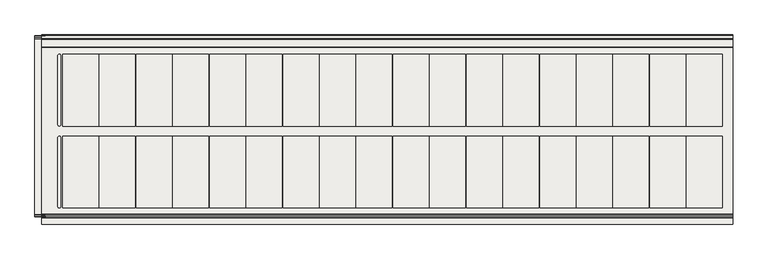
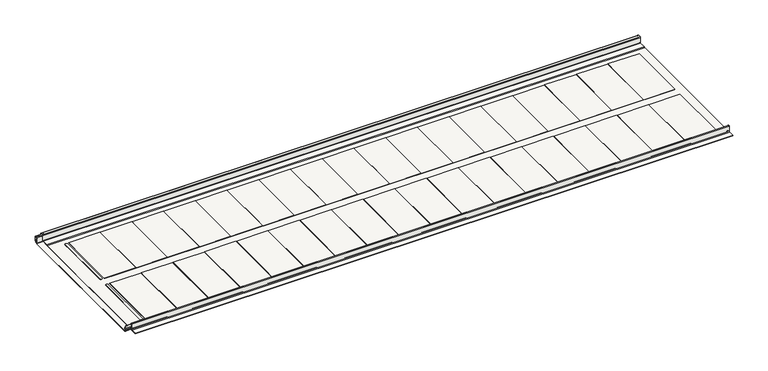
"""IFC4 building model written with IfcOpenShell, lengths in millimetres: covering geometry, Zintegrowany dach fotowoltaiczny FIT VOLT (pojedynczy arkusz) : Zintegrowany dach fotowoltaiczny FIT VOLT (pojedynczy arkusz)."""

from ifc_helpers import new_model, si_unit, point, frame, frame_2d, origin, origin_with_axes, place, context, project, spatial, polyline, circle_curve, trimmed, segment, composite_curve, outline, extrude, source, transform, mapped, element, save


def covering_053faf2b(model_context):
    return source(origin(), model_context, "Body", "SweptSolid", [
        extrude(outline(composite_curve([segment(polyline([(-2.5681305, 21.8319677), (2.9635359, 9.0966765)]), True, "CONTINUOUS"), segment(trimmed(circle_curve(frame_2d((1.8858378, 8.3696504)), 1.3), [point((2.9635359, 9.0966765))], [point((2.5164487, 7.2328434))], False, "CARTESIAN"), True, "CONTINUOUS"), segment(polyline([(2.5164487, 7.2328434), (-0.4684049, 6.0274031)]), True, "CONTINUOUS"), segment(trimmed(circle_curve(frame_2d((-0.2133471, 5.3958411)), 0.6811204), [point((-0.4684049, 6.0274031))], [point((-0.8105181, 5.0682564))], True, "CARTESIAN"), True, "CONTINUOUS"), segment(polyline([(-0.8105181, 5.0682564), (1.9697298, 0.0), (521.7638552, 0.0)]), True, "CONTINUOUS"), segment(trimmed(circle_curve(frame_2d((521.7638552, 0.82435)), 0.82435), [point((521.7638552, 0.0))], [point((522.5882052, 0.82435))], True, "CARTESIAN"), True, "CONTINUOUS"), segment(polyline([(522.5882052, 0.82435), (522.5882052, 20.0)]), True, "CONTINUOUS"), segment(trimmed(circle_curve(frame_2d((524.5882052, 20.0)), 2.0), [point((522.5882052, 20.0))], [point((524.5882052, 22.0))], False, "CARTESIAN"), True, "CONTINUOUS"), segment(polyline([(524.5882052, 22.0), (529.4117948, 22.0)]), True, "CONTINUOUS"), segment(trimmed(circle_curve(frame_2d((529.4117948, 20.0)), 2.0), [point((529.4117948, 22.0))], [point((531.4117948, 20.0))], False, "CARTESIAN"), True, "CONTINUOUS"), segment(polyline([(531.4117948, 20.0), (531.4117948, 7.9245569)]), True, "CONTINUOUS"), segment(trimmed(circle_curve(frame_2d((527.6117948, 7.9245569)), 3.8), [point((531.4117948, 7.9245569))], [point((529.3014079, 4.520852))], False, "CARTESIAN"), True, "CONTINUOUS"), segment(trimmed(circle_curve(frame_2d((529.8170787, 3.4820395)), 1.1597619), [point((529.3014079, 4.520852))], [point((528.671889, 3.2987691))], True, "CARTESIAN"), True, "CONTINUOUS"), segment(polyline([(528.671889, 3.2987691), (529.5083048, 1.7740238), (528.6315567, 1.2930739), (527.799575, 2.809736)]), True, "CONTINUOUS"), segment(trimmed(circle_curve(frame_2d((529.3170787, 3.4820395)), 1.6597619), [point((527.799575, 2.809736))], [point((528.5790904, 4.9687079))], False, "CARTESIAN"), True, "CONTINUOUS"), segment(trimmed(circle_curve(frame_2d((527.1117948, 7.9245569)), 3.3), [point((528.5790904, 4.9687079))], [point((530.4117948, 7.9245569))], True, "CARTESIAN"), True, "CONTINUOUS"), segment(polyline([(530.4117948, 7.9245569), (530.4117948, 19.5)]), True, "CONTINUOUS"), segment(trimmed(circle_curve(frame_2d((528.9117948, 19.5)), 1.5), [point((530.4117948, 19.5))], [point((528.9117948, 21.0))], True, "CARTESIAN"), True, "CONTINUOUS"), segment(polyline([(528.9117948, 21.0), (525.0882052, 21.0)]), True, "CONTINUOUS"), segment(trimmed(circle_curve(frame_2d((525.0882052, 19.5)), 1.5), [point((525.0882052, 21.0))], [point((523.5882052, 19.5))], True, "CARTESIAN"), True, "CONTINUOUS"), segment(polyline([(523.5882052, 19.5), (523.5882052, 0.7363796)]), True, "CONTINUOUS"), segment(trimmed(circle_curve(frame_2d((521.7893299, 0.8)), 1.8), [point((523.5882052, 0.7363796))], [point((521.7893299, -1.0))], False, "CARTESIAN"), True, "CONTINUOUS"), segment(polyline([(521.7893299, -1.0), (2.5617472, -1.0)]), True, "CONTINUOUS"), segment(trimmed(circle_curve(frame_2d((2.5617472, 1.0)), 2.0), [point((2.5617472, -1.0))], [point((0.808251, 0.0381003))], False, "CARTESIAN"), True, "CONTINUOUS"), segment(polyline([(0.808251, 0.0381003), (-1.8392101, 4.8642928)]), True, "CONTINUOUS"), segment(trimmed(circle_curve(frame_2d((-0.611401, 5.537821)), 1.4004126), [point((-1.8392101, 4.8642928))], [point((-1.1358108, 6.8363393))], False, "CARTESIAN"), True, "CONTINUOUS"), segment(polyline([(-1.1358108, 6.8363393), (2.2594808, 8.207536), (-3.4160384, 21.2740127)]), True, "CONTINUOUS"), segment(trimmed(circle_curve(frame_2d((-2.9435539, 21.4792398)), 0.5151308), [point((-3.4160384, 21.2740127))], [point((-2.5681305, 21.8319677))], False, "CARTESIAN"), True, "CONTINUOUS")], self_intersect=False)), frame((-1585.0, 0.0, 0.0), z_axis=(1.0, 0.0, 0.0), x_axis=(0.0, 1.0, 0.0)), (0.0, 0.0, 1.0), 30.0),
        extrude(outline(polyline([(-1503.0, 264.5790386), (-1503.0, 476.3537022), (-1396.67, 476.3537022), (-1396.67, 264.5790386), (-1503.0, 264.5790386)])), origin_with_axes(), (0.0, 0.0, 1.0), 2.0),
        extrude(outline(polyline([(-1503.0, 234.5790386), (-1396.67, 234.5790386), (-1396.67, 22.804375), (-1503.0, 22.804375), (-1503.0, 234.5790386)])), origin_with_axes(), (0.0, 0.0, 1.0), 2.0),
        extrude(outline(composite_curve([segment(polyline([(-1517.1944099, 268.7414835), (-1517.1944099, 472.1912573)]), True, "CONTINUOUS"), segment(trimmed(circle_curve(frame_2d((-1513.031965, 472.1912573)), 4.1624449), [point((-1517.1944099, 472.1912573))], [point((-1508.8695201, 472.1912573))], False, "CARTESIAN"), True, "CONTINUOUS"), segment(polyline([(-1508.8695201, 472.1912573), (-1508.8695201, 268.7414835)]), True, "CONTINUOUS"), segment(trimmed(circle_curve(frame_2d((-1513.031965, 268.7414835)), 4.1624449), [point((-1508.8695201, 268.7414835))], [point((-1517.1944099, 268.7414835))], False, "CARTESIAN"), True, "CONTINUOUS")], self_intersect=False)), origin_with_axes(), (0.0, 0.0, 1.0), 2.0),
        extrude(outline(composite_curve([segment(trimmed(circle_curve(frame_2d((-1513.031965, 230.4165937)), 4.1624449), [point((-1517.1944099, 230.4165937))], [point((-1508.8695201, 230.4165937))], False, "CARTESIAN"), True, "CONTINUOUS"), segment(polyline([(-1508.8695201, 230.4165937), (-1508.8695201, 26.9668199)]), True, "CONTINUOUS"), segment(trimmed(circle_curve(frame_2d((-1513.031965, 26.9668199)), 4.1624449), [point((-1508.8695201, 26.9668199))], [point((-1517.1944099, 26.9668199))], False, "CARTESIAN"), True, "CONTINUOUS"), segment(polyline([(-1517.1944099, 26.9668199), (-1517.1944099, 230.4165937)]), True, "CONTINUOUS")], self_intersect=False)), origin_with_axes(), (0.0, 0.0, 1.0), 2.0),
        extrude(outline(polyline([(-1288.3333333, 264.5790386), (-1394.6633333, 264.5790386), (-1394.6633333, 476.3537022), (-1288.3333333, 476.3537022), (-1288.3333333, 264.5790386)])), origin_with_axes(), (0.0, 0.0, 1.0), 2.0),
        extrude(outline(polyline([(-1288.3333333, 234.5790386), (-1288.3333333, 22.804375), (-1394.6633333, 22.804375), (-1394.6633333, 234.5790386), (-1288.3333333, 234.5790386)])), origin_with_axes(), (0.0, 0.0, 1.0), 2.0),
        extrude(outline(polyline([(-1286.3333333, 264.5790386), (-1286.3333333, 476.3537022), (-1180.0033333, 476.3537022), (-1180.0033333, 264.5790386), (-1286.3333333, 264.5790386)])), origin_with_axes(), (0.0, 0.0, 1.0), 2.0),
        extrude(outline(polyline([(-1286.3333333, 234.5790386), (-1180.0033333, 234.5790386), (-1180.0033333, 22.804375), (-1286.3333333, 22.804375), (-1286.3333333, 234.5790386)])), origin_with_axes(), (0.0, 0.0, 1.0), 2.0),
        extrude(outline(polyline([(-1071.6666667, 264.5790386), (-1177.9966667, 264.5790386), (-1177.9966667, 476.3537022), (-1071.6666667, 476.3537022), (-1071.6666667, 264.5790386)])), origin_with_axes(), (0.0, 0.0, 1.0), 2.0),
        extrude(outline(polyline([(-1071.6666667, 234.5790386), (-1071.6666667, 22.804375), (-1177.9966667, 22.804375), (-1177.9966667, 234.5790386), (-1071.6666667, 234.5790386)])), origin_with_axes(), (0.0, 0.0, 1.0), 2.0),
        extrude(outline(polyline([(-1069.6666667, 264.5790386), (-1069.6666667, 476.3537022), (-963.3366667, 476.3537022), (-963.3366667, 264.5790386), (-1069.6666667, 264.5790386)])), origin_with_axes(), (0.0, 0.0, 1.0), 2.0),
        extrude(outline(polyline([(-1069.6666667, 234.5790386), (-963.3366667, 234.5790386), (-963.3366667, 22.804375), (-1069.6666667, 22.804375), (-1069.6666667, 234.5790386)])), origin_with_axes(), (0.0, 0.0, 1.0), 2.0),
        extrude(outline(polyline([(-855.0, 264.5790386), (-961.33, 264.5790386), (-961.33, 476.3537022), (-855.0, 476.3537022), (-855.0, 264.5790386)])), origin_with_axes(), (0.0, 0.0, 1.0), 2.0),
        extrude(outline(polyline([(-855.0, 234.5790386), (-855.0, 22.804375), (-961.33, 22.804375), (-961.33, 234.5790386), (-855.0, 234.5790386)])), origin_with_axes(), (0.0, 0.0, 1.0), 2.0),
        extrude(outline(polyline([(-853.0, 264.5790386), (-853.0, 476.3537022), (-746.67, 476.3537022), (-746.67, 264.5790386), (-853.0, 264.5790386)])), origin_with_axes(), (0.0, 0.0, 1.0), 2.0),
        extrude(outline(polyline([(-853.0, 234.5790386), (-746.67, 234.5790386), (-746.67, 22.804375), (-853.0, 22.804375), (-853.0, 234.5790386)])), origin_with_axes(), (0.0, 0.0, 1.0), 2.0),
        extrude(outline(polyline([(-638.3333333, 264.5790386), (-744.6633333, 264.5790386), (-744.6633333, 476.3537022), (-638.3333333, 476.3537022), (-638.3333333, 264.5790386)])), origin_with_axes(), (0.0, 0.0, 1.0), 2.0),
        extrude(outline(polyline([(-638.3333333, 234.5790386), (-638.3333333, 22.804375), (-744.6633333, 22.804375), (-744.6633333, 234.5790386), (-638.3333333, 234.5790386)])), origin_with_axes(), (0.0, 0.0, 1.0), 2.0),
        extrude(outline(polyline([(-636.3333333, 264.5790386), (-636.3333333, 476.3537022), (-530.0033333, 476.3537022), (-530.0033333, 264.5790386), (-636.3333333, 264.5790386)])), origin_with_axes(), (0.0, 0.0, 1.0), 2.0),
        extrude(outline(polyline([(-636.3333333, 234.5790386), (-530.0033333, 234.5790386), (-530.0033333, 22.804375), (-636.3333333, 22.804375), (-636.3333333, 234.5790386)])), origin_with_axes(), (0.0, 0.0, 1.0), 2.0),
        extrude(outline(polyline([(-421.6666667, 264.5790386), (-527.9966667, 264.5790386), (-527.9966667, 476.3537022), (-421.6666667, 476.3537022), (-421.6666667, 264.5790386)])), origin_with_axes(), (0.0, 0.0, 1.0), 2.0),
        extrude(outline(polyline([(-421.6666667, 234.5790386), (-421.6666667, 22.804375), (-527.9966667, 22.804375), (-527.9966667, 234.5790386), (-421.6666667, 234.5790386)])), origin_with_axes(), (0.0, 0.0, 1.0), 2.0),
        extrude(outline(polyline([(-419.6666667, 264.5790386), (-419.6666667, 476.3537022), (-313.3366667, 476.3537022), (-313.3366667, 264.5790386), (-419.6666667, 264.5790386)])), origin_with_axes(), (0.0, 0.0, 1.0), 2.0),
        extrude(outline(polyline([(-419.6666667, 234.5790386), (-313.3366667, 234.5790386), (-313.3366667, 22.804375), (-419.6666667, 22.804375), (-419.6666667, 234.5790386)])), origin_with_axes(), (0.0, 0.0, 1.0), 2.0),
        extrude(outline(polyline([(-205.0, 264.5790386), (-311.33, 264.5790386), (-311.33, 476.3537022), (-205.0, 476.3537022), (-205.0, 264.5790386)])), origin_with_axes(), (0.0, 0.0, 1.0), 2.0),
        extrude(outline(polyline([(-205.0, 234.5790386), (-205.0, 22.804375), (-311.33, 22.804375), (-311.33, 234.5790386), (-205.0, 234.5790386)])), origin_with_axes(), (0.0, 0.0, 1.0), 2.0),
        extrude(outline(polyline([(-203.0, 264.5790386), (-203.0, 476.3537022), (-96.67, 476.3537022), (-96.67, 264.5790386), (-203.0, 264.5790386)])), origin_with_axes(), (0.0, 0.0, 1.0), 2.0),
        extrude(outline(polyline([(-203.0, 234.5790386), (-96.67, 234.5790386), (-96.67, 22.804375), (-203.0, 22.804375), (-203.0, 234.5790386)])), origin_with_axes(), (0.0, 0.0, 1.0), 2.0),
        extrude(outline(polyline([(11.6666667, 264.5790386), (-94.6633333, 264.5790386), (-94.6633333, 476.3537022), (11.6666667, 476.3537022), (11.6666667, 264.5790386)])), origin_with_axes(), (0.0, 0.0, 1.0), 2.0),
        extrude(outline(polyline([(11.6666667, 234.5790386), (11.6666667, 22.804375), (-94.6633333, 22.804375), (-94.6633333, 234.5790386), (11.6666667, 234.5790386)])), origin_with_axes(), (0.0, 0.0, 1.0), 2.0),
        extrude(outline(polyline([(13.6666667, 264.5790386), (13.6666667, 476.3537022), (119.9966667, 476.3537022), (119.9966667, 264.5790386), (13.6666667, 264.5790386)])), origin_with_axes(), (0.0, 0.0, 1.0), 2.0),
        extrude(outline(polyline([(13.6666667, 234.5790386), (119.9966667, 234.5790386), (119.9966667, 22.804375), (13.6666667, 22.804375), (13.6666667, 234.5790386)])), origin_with_axes(), (0.0, 0.0, 1.0), 2.0),
        extrude(outline(polyline([(228.3333333, 264.5790386), (122.0033333, 264.5790386), (122.0033333, 476.3537022), (228.3333333, 476.3537022), (228.3333333, 264.5790386)])), origin_with_axes(), (0.0, 0.0, 1.0), 2.0),
        extrude(outline(polyline([(228.3333333, 234.5790386), (228.3333333, 22.804375), (122.0033333, 22.804375), (122.0033333, 234.5790386), (228.3333333, 234.5790386)])), origin_with_axes(), (0.0, 0.0, 1.0), 2.0),
        extrude(outline(polyline([(230.3333333, 264.5790386), (230.3333333, 476.3537022), (336.6633333, 476.3537022), (336.6633333, 264.5790386), (230.3333333, 264.5790386)])), origin_with_axes(), (0.0, 0.0, 1.0), 2.0),
        extrude(outline(polyline([(230.3333333, 234.5790386), (336.6633333, 234.5790386), (336.6633333, 22.804375), (230.3333333, 22.804375), (230.3333333, 234.5790386)])), origin_with_axes(), (0.0, 0.0, 1.0), 2.0),
        extrude(outline(polyline([(445.0, 264.5790386), (338.67, 264.5790386), (338.67, 476.3537022), (445.0, 476.3537022), (445.0, 264.5790386)])), origin_with_axes(), (0.0, 0.0, 1.0), 2.0),
        extrude(outline(polyline([(445.0, 234.5790386), (445.0, 22.804375), (338.67, 22.804375), (338.67, 234.5790386), (445.0, 234.5790386)])), origin_with_axes(), (0.0, 0.0, 1.0), 2.0),
        extrude(outline(composite_curve([segment(polyline([(-24.5882052, 1.0), (-7.3006701, 1.0)]), True, "CONTINUOUS"), segment(trimmed(circle_curve(frame_2d((-7.3006701, 3.8)), 2.8), [point((-7.3006701, 1.0))], [point((-4.5006701, 3.8))], True, "CARTESIAN"), True, "CONTINUOUS"), segment(polyline([(-4.5006701, 3.8), (-4.5006701, 21.5940327)]), True, "CONTINUOUS"), segment(trimmed(circle_curve(frame_2d((-2.8873432, 21.3837808)), 1.6269694), [point((-4.5006701, 21.5940327))], [point((-1.4716419, 22.185541))], False, "CARTESIAN"), True, "CONTINUOUS"), segment(polyline([(-1.4716419, 22.185541), (3.9852393, 9.622424)]), True, "CONTINUOUS"), segment(trimmed(circle_curve(frame_2d((2.0217948, 8.4245569)), 2.3), [point((3.9852393, 9.622424))], [point((3.075714, 6.3802344))], False, "CARTESIAN"), True, "CONTINUOUS"), segment(polyline([(3.075714, 6.3802344), (1.4030148, 5.7047108)]), True, "CONTINUOUS"), segment(trimmed(circle_curve(frame_2d((1.7401906, 4.8698125)), 0.9004126), [point((1.4030148, 5.7047108))], [point((0.9507556, 4.4367592))], True, "CARTESIAN"), True, "CONTINUOUS"), segment(polyline([(0.9507556, 4.4367592), (2.8360277, 1.0), (495.1728378, 1.0), (497.1728378, 3.0), (519.7638552, 3.0)]), True, "CONTINUOUS"), segment(trimmed(circle_curve(frame_2d((519.7638552, 3.82435)), 0.82435), [point((519.7638552, 3.0))], [point((520.5882052, 3.82435))], True, "CARTESIAN"), True, "CONTINUOUS"), segment(polyline([(520.5882052, 3.82435), (520.5882052, 22.5)]), True, "CONTINUOUS"), segment(trimmed(circle_curve(frame_2d((522.5882052, 22.5)), 2.0), [point((520.5882052, 22.5))], [point((522.5882052, 24.5))], False, "CARTESIAN"), True, "CONTINUOUS"), segment(polyline([(522.5882052, 24.5), (531.4117948, 24.5)]), True, "CONTINUOUS"), segment(trimmed(circle_curve(frame_2d((531.4117948, 22.5)), 2.0), [point((531.4117948, 24.5))], [point((533.4117948, 22.5))], False, "CARTESIAN"), True, "CONTINUOUS"), segment(polyline([(533.4117948, 22.5), (533.4117948, 8.4245569)]), True, "CONTINUOUS"), segment(trimmed(circle_curve(frame_2d((529.6117948, 8.4245569)), 3.8), [point((533.4117948, 8.4245569))], [point((531.3014079, 5.020852))], False, "CARTESIAN"), True, "CONTINUOUS"), segment(trimmed(circle_curve(frame_2d((531.8170787, 3.9820395)), 1.1597619), [point((531.3014079, 5.020852))], [point((530.671889, 3.7987691))], True, "CARTESIAN"), True, "CONTINUOUS"), segment(polyline([(530.671889, 3.7987691), (531.5083048, 2.2740238), (530.6315567, 1.7930739), (529.799575, 3.309736)]), True, "CONTINUOUS"), segment(trimmed(circle_curve(frame_2d((531.3170787, 3.9820395)), 1.6597619), [point((529.799575, 3.309736))], [point((530.5790904, 5.4687079))], False, "CARTESIAN"), True, "CONTINUOUS"), segment(trimmed(circle_curve(frame_2d((529.1117948, 8.4245569)), 3.3), [point((530.5790904, 5.4687079))], [point((532.4117948, 8.4245569))], True, "CARTESIAN"), True, "CONTINUOUS"), segment(polyline([(532.4117948, 8.4245569), (532.4117948, 22.0)]), True, "CONTINUOUS"), segment(trimmed(circle_curve(frame_2d((530.9117948, 22.0)), 1.5), [point((532.4117948, 22.0))], [point((530.9117948, 23.5))], True, "CARTESIAN"), True, "CONTINUOUS"), segment(polyline([(530.9117948, 23.5), (523.0882052, 23.5)]), True, "CONTINUOUS"), segment(trimmed(circle_curve(frame_2d((523.0882052, 22.0)), 1.5), [point((523.0882052, 23.5))], [point((521.5882052, 22.0))], True, "CARTESIAN"), True, "CONTINUOUS"), segment(polyline([(521.5882052, 22.0), (521.5882052, 3.7363796)]), True, "CONTINUOUS"), segment(trimmed(circle_curve(frame_2d((519.7893299, 3.8)), 1.8), [point((521.5882052, 3.7363796))], [point((519.7893299, 2.0))], False, "CARTESIAN"), True, "CONTINUOUS"), segment(polyline([(519.7893299, 2.0), (497.5870514, 2.0), (495.5870514, 0.0), (3.1965819, 0.0)]), True, "CONTINUOUS"), segment(trimmed(circle_curve(frame_2d((3.4199088, 1.9874922)), 2.0), [point((3.1965819, 0.0))], [point((1.7880605, 0.8311742))], False, "CARTESIAN"), True, "CONTINUOUS"), segment(polyline([(1.7880605, 0.8311742), (-0.1966367, 4.4491804)]), True, "CONTINUOUS"), segment(trimmed(circle_curve(frame_2d((1.0311724, 5.1227086)), 1.4004126), [point((-0.1966367, 4.4491804))], [point((0.5067626, 6.4212269))], False, "CARTESIAN"), True, "CONTINUOUS"), segment(polyline([(0.5067626, 6.4212269), (2.6524056, 7.28775)]), True, "CONTINUOUS"), segment(trimmed(circle_curve(frame_2d((2.0217948, 8.4245569)), 1.3), [point((2.6524056, 7.28775))], [point((3.0994928, 9.151583))], True, "CARTESIAN"), True, "CONTINUOUS"), segment(polyline([(3.0994928, 9.151583), (-2.3628688, 21.7273173)]), True, "CONTINUOUS"), segment(trimmed(circle_curve(frame_2d((-2.8873432, 21.3837808)), 0.6269694), [point((-2.3628688, 21.7273173))], [point((-3.5006701, 21.5138608))], True, "CARTESIAN"), True, "CONTINUOUS"), segment(polyline([(-3.5006701, 21.5138608), (-3.5006701, 3.8)]), True, "CONTINUOUS"), segment(trimmed(circle_curve(frame_2d((-7.3006701, 3.8)), 3.8), [point((-3.5006701, 3.8))], [point((-7.3006701, 0.0))], False, "CARTESIAN"), True, "CONTINUOUS"), segment(polyline([(-7.3006701, 0.0), (-24.5882052, 0.0), (-24.5882052, 1.0)]), True, "CONTINUOUS")], self_intersect=False)), frame((-1565.0, 0.0, 0.0), z_axis=(1.0, 0.0, 0.0), x_axis=(0.0, 1.0, 0.0)), (0.0, 0.0, 1.0), 2040.0),
    ])


if __name__ == "__main__":
    model = new_model("IFC4")
    model_context = context("Model", 3, world=origin())
    ifc_project = project(units=[si_unit("LENGTHUNIT", "METRE", prefix="MILLI")], contexts=[model_context])
    site = spatial("IfcSite", under=ifc_project)
    building = spatial("IfcBuilding", under=site)
    placement = place(None, origin())
    covering_shape = covering_053faf2b(model_context)
    element("IfcCovering", 1, ObjectType="Zintegrowany dach fotowoltaiczny FIT VOLT (pojedynczy arkusz) : Zintegrowany dach fotowoltaiczny FIT VOLT (pojedynczy arkusz)", at=placement, inside=building, context=model_context, shape_type="MappedRepresentation", body=[
        mapped(covering_shape, transform((0.0, 0.0, 0.0), x_axis=(1.0, 0.0, 0.0), y_axis=(0.0, 1.0, 0.0), z_axis=(0.0, 0.0, 1.0))),
    ])
    save(model, "model.ifc")
